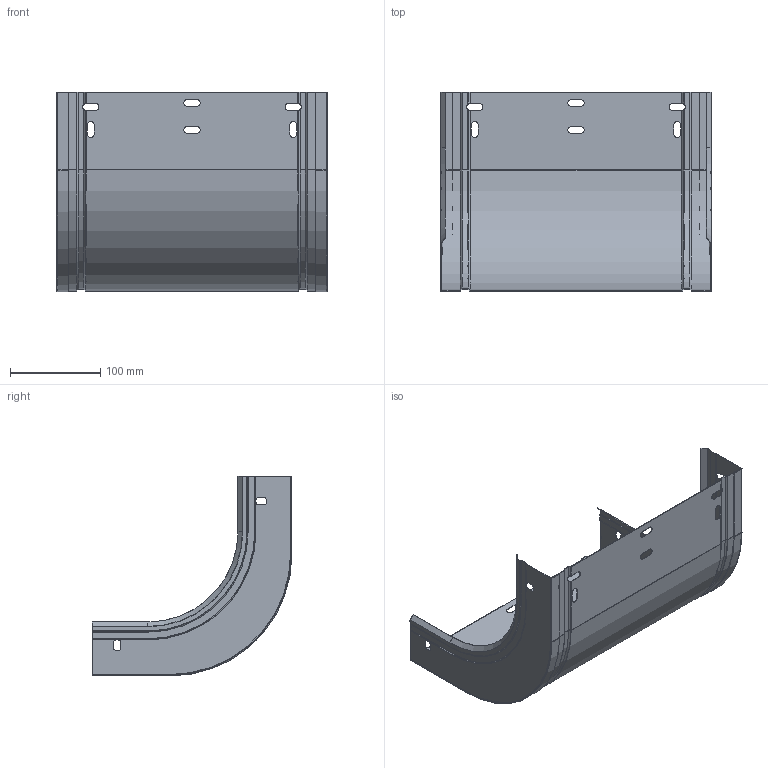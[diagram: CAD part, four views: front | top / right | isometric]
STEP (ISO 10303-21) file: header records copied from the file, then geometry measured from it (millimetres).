
FILE_DESCRIPTION (( 'STEP AP203' ), '1' );
FILE_NAME ('ERE_CONCAVA 300x60.step', '2023-07-27T18:53:42', ( '' ), ( '' ), 'SwSTEP 2.0', 'SolidWorks 2022', '' );
FILE_SCHEMA (( 'CONFIG_CONTROL_DESIGN' ));
Length unit declared in the file: millimetre
Products named in the file (3): ERE_BASE CC_300x60; ERE_CONCAVA 300x60; ERE_LATERAL CC_60
Assembly tree (3 placements, depth 2):
  ERE_CONCAVA 300x60
    ERE_BASE CC_300x60
    ERE_LATERAL CC_60  x2
Bounding box: 300 x 222 x 222 mm (x, y, z)
Volume: 133496.6 mm3; surface area: 336690 mm2
Topology: 3 solids, 3 shells, 234 faces, 642 edges, 402 vertices
Faces by surface type: plane 146, cylinder 62, cone 22, torus 4
Entity records: 6006 total; most frequent: CARTESIAN_POINT 1036, ORIENTED_EDGE 988, DIRECTION 969, EDGE_CURVE 494, LINE 353, VECTOR 353, VERTEX_POINT 311, AXIS2_PLACEMENT_3D 308
